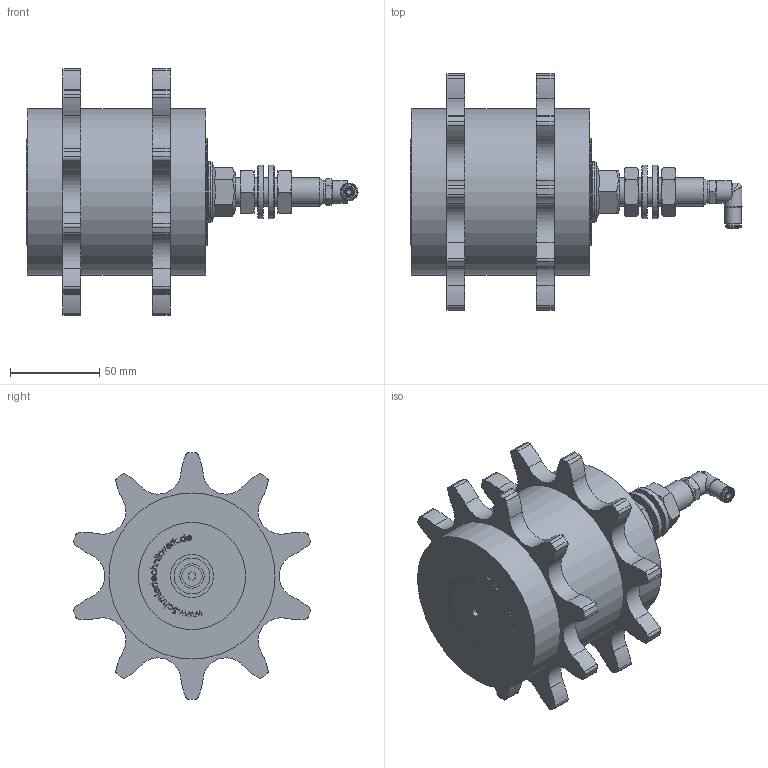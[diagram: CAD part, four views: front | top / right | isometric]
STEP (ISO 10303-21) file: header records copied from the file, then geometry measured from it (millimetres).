
FILE_DESCRIPTION (( 'STEP AP214' ), '1' );
FILE_NAME ('012_06_24B2_AZ.STEP', '2026-01-20T08:31:18', ( '' ), ( '' ), 'SwSTEP 2.0', 'SolidWorks 2022', '' );
FILE_SCHEMA (( 'AUTOMOTIVE_DESIGN' ));
Length unit declared in the file: millimetre
Products named in the file (9): R202201-I1-N2A_1; 012_06_24B2_A_Kettenschmierritzel 24 B-2, Z10 - gerade; 214602-N2_GEW.-_1-8_1-8_1; DR4_NEU_1; Winkelsteckverschraubung_04_1_8; Mutter_M16; Scheibe_M16; OR 7.2X1.9_1; 012_06_24B2_AZ
Assembly tree (10 placements, depth 3):
  012_06_24B2_AZ
    012_06_24B2_A_Kettenschmierritzel 24 B-2, Z10 - gerade
    Mutter_M16  x2
    Scheibe_M16  x2
    Winkelsteckverschraubung_04_1_8
      R202201-I1-N2A_1
      DR4_NEU_1
      214602-N2_GEW.-_1-8_1-8_1
      OR 7.2X1.9_1
Bounding box: 185.8 x 132.39 x 138 mm (x, y, z)
Volume: 10877 mm3; surface area: 95762.5 mm2
Topology: 8 solids, 42 shells, 385 faces, 1206 edges, 898 vertices
Faces by surface type: cylinder 195, plane 102, cone 75, bspline 9, torus 4
Full cylindrical faces by diameter (mm): 3 x1, 4.1 x2, 5 x1, 5.5 x1, 6 x2, 6.4 x1, 7.3 x1, 7.4 x1, 7.6 x1, 8.3 x1, 8.566 x1, 9 x3, 9.1 x1, 9.728 x1, 10 x9, 10.1 x2, 12.5 x1, 13 x1, 14 x3, 16 x1, 17 x2, 20 x2, 20.2 x1, 23 x6, 30 x2, 33.6 x1, 60 x2, 93 x3
Entity records: 20598 total; most frequent: CARTESIAN_POINT 8024, DIRECTION 1888, ORIENTED_EDGE 1669, EDGE_CURVE 998, VERTEX_POINT 811, AXIS2_PLACEMENT_3D 774, EDGE_LOOP 511, FACE_OUTER_BOUND 416
